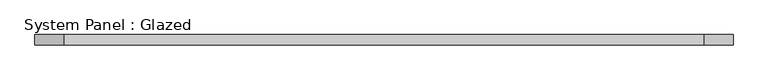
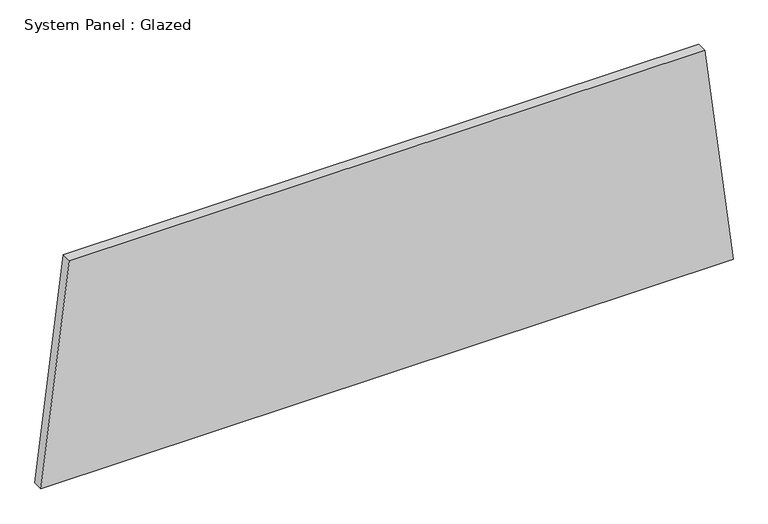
"""IFC4 building model written with IfcOpenShell, lengths in millimetres: plate geometry, System Panel : Glazed."""

from ifc_helpers import new_model, si_unit, frame, origin, place, context, project, spatial, polyline, outline, extrude, source, transform, mapped, element, save


def system_panel_glazed_31312e4f(model_context):
    return source(origin(), model_context, "Body", "SweptSolid", [
        extrude(outline(polyline([(0.0, -868.1737065), (0.0, 868.1737065), (579.6314374, 796.80858), (579.6314374, -796.80858), (0.0, -868.1737065)])), frame((0.0, -44.45, 0.0), z_axis=(0.0, 1.0, 0.0), x_axis=(0.0, 0.0, 1.0)), (0.0, 0.0, 1.0), 25.4),
    ])


if __name__ == "__main__":
    model = new_model("IFC4")
    model_context = context("Model", 3, world=origin())
    ifc_project = project(units=[si_unit("LENGTHUNIT", "METRE", prefix="MILLI")], contexts=[model_context])
    site = spatial("IfcSite", under=ifc_project)
    building = spatial("IfcBuilding", under=site)
    placement = place(None, origin())
    system_panel_glazed_shape = system_panel_glazed_31312e4f(model_context)
    element("IfcPlate", 1, ObjectType="System Panel : Glazed", at=placement, inside=building, context=model_context, shape_type="MappedRepresentation", body=[
        mapped(system_panel_glazed_shape, transform((0.0, 0.0, 0.0), x_axis=(1.0, 0.0, 0.0), y_axis=(0.0, 1.0, 0.0), z_axis=(0.0, 0.0, 1.0))),
    ])
    save(model, "model.ifc")
